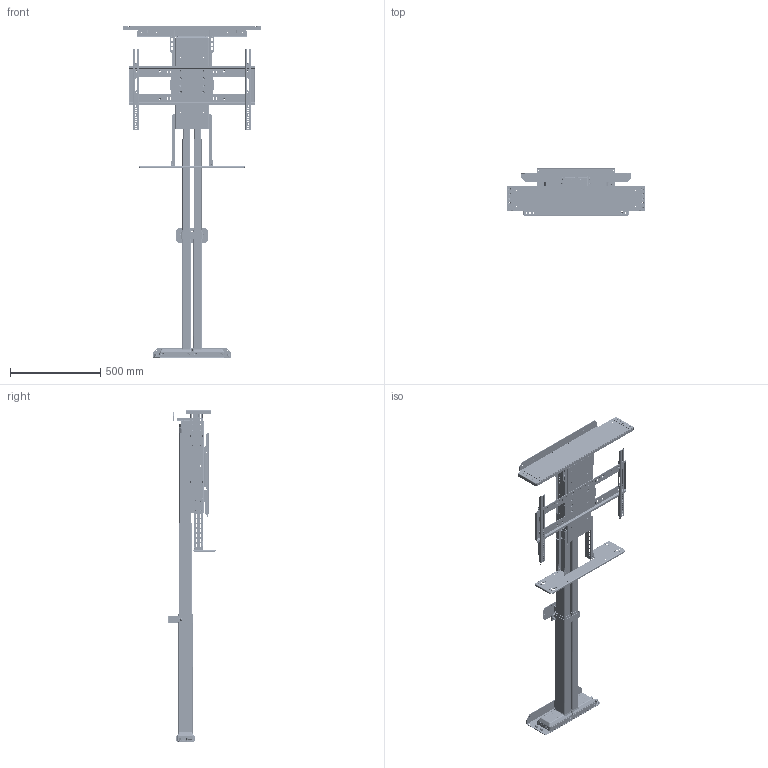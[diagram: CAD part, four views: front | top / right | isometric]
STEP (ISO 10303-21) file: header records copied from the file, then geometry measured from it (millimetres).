
FILE_DESCRIPTION(/* description */ ('STEP AP242','CAx-IF Rec.Pracs.---Representation and Presentation of Product Manufacturing Information (PMI)---4.0---2014-10-13','CAx-IF Rec.Pracs.---3D Tessellated Geometry---0.4---2014-09-14','2;1'),/* implementation_level */ '2;1');
FILE_NAME(/* name */ '65523c1b9b98ac61b84e0cd4',/* time_stamp */ '2023-11-13T15:09:19Z',/* author */ (''),/* organization */ (''),/* preprocessor_version */ 'ST-DEVELOPER v19.4',/* originating_system */ ' ',/* authorisation */ ' ');
FILE_SCHEMA (('AP242_MANAGED_MODEL_BASED_3D_ENGINEERING_MIM_LF { 1 0 10303 442 1 1 4 }'));
Products named in the file (90): DL-65en/s (HD); Socket button head screw M6x1 x 12; Hex socket countersunk head screw M6x1 x 12; Socket button head screw M6x1 x 16; WDS8151-215; ULS-NX-032 - HD Quick Release LC Mount; ULS-NX-029 - HD Column Clamp; L65 PS Adapter; Lift Column H <1>; L45 LC Inner Profile; L45 LC Motor Housing; L45 LC Middle Profile; Lift Column H <2>; ULS-NX-103 - ULS EN HD REAR SUPPORT WELDMENT <1>; ULS-NX-103 - ULS EN REAR SUPPORT; PEM FHS-M6-12  ; ULS-NX-013 -- L77OPU SS 013  - Rev B; ULS-NX-036 - ULS EN HD QR Base Mount <1>; ULS-NX-036 - ULS EN HD QR Base Mount; DL-65en 033 Lower Brkt Asm <1>; PEM CLS-M6-1  ; ULS-NX-016 - UL ACCESSORY PLATE; ULS-NX-033 -- L77OPU SS 033 - Rev B; SS Fixed Short - Rev B2 <1>; PEM CLS-M6-1; PEM Nut F-M4-2; PS Screen Support Fixed 01; PEM Nut CLSS-M5-1; MSHD Assm - Rev E9 <1>; M6x14 Button Socket Cap; MSHD Upper Assembly <1>; Spring 01; 93625A250_18-8 Stainless Steel Nylon-Insert Locknut; OTTO SERIES B2 SWITCH(2019); Ball Bearing 375; M2x8 92000A015_Passivated 18-8 Stainless Steel Pan Head Phillips Scre
ws; CP Washer 01; M2 Split Lock Washer; CP Plate Outer; Bushing 01 ...
Assembly tree (278 placements, depth 5):
  DL-65en/s (HD)
    Socket button head screw M6x1 x 12  x20
    Hex socket countersunk head screw M6x1 x 12  x17
    Socket button head screw M6x1 x 16  x4
    WDS8151-215  x6
    ULS-NX-032 - HD Quick Release LC Mount
    ULS-NX-029 - HD Column Clamp
    L65 PS Adapter
    Lift Column H <1>
      L45 LC Inner Profile
      L45 LC Motor Housing
      L45 LC Middle Profile
    Lift Column H <2>
      L45 LC Middle Profile
      L45 LC Motor Housing
      L45 LC Inner Profile
    ULS-NX-103 - ULS EN HD REAR SUPPORT WELDMENT <1>
      ULS-NX-103 - ULS EN REAR SUPPORT  x2
      PEM FHS-M6-12    x2
    ULS-NX-013 -- L77OPU SS 013  - Rev B
    ULS-NX-036 - ULS EN HD QR Base Mount <1>
      PEM FHS-M6-12    x4
      ULS-NX-036 - ULS EN HD QR Base Mount
    DL-65en 033 Lower Brkt Asm <1>
      PEM CLS-M6-1    x8
      ULS-NX-016 - UL ACCESSORY PLATE
      Hex socket countersunk head screw M6x1 x 12  x4
      ULS-NX-033 -- L77OPU SS 033 - Rev B  x2
    SS Fixed Short - Rev B2 <1>
      PEM CLS-M6-1  x42
      PEM Nut F-M4-2  x8
      PS Screen Support Fixed 01
      PEM Nut CLSS-M5-1  x2
      L65 PS Adapter
    MSHD Assm - Rev E9 <1>
      M6x14 Button Socket Cap  x12
      MSHD Upper Assembly <1>
        Spring 01  x8
        93625A250_18-8 Stainless Steel Nylon-Insert Locknut
        OTTO SERIES B2 SWITCH(2019)
        Ball Bearing 375
        M2x8 92000A015_Passivated 18-8 Stainless Steel Pan Head Phillips Scre
ws  x2
        CP Washer 01  x3
        M2 Split Lock Washer  x2
        93625A250_18-8 Stainless Steel Nylon-Insert Locknut
        CP Plate Outer  x2
        Bushing 01
        1_8 Ball
        Detent Socket
        MSHD Bottom Half
        OTTO SERIES B2 SWITCH(2019)
        Disc Spring
        MSHD Thrust Plate
        M6 Bolt Flathead
        CP Plate Inner  x2
        3726N125_Corrosion-Resistant Stacked Wave Disc Spring
        MSHD Top Half
      MSHD Base Plate <1>
        Alignment Pin  x2
        L-75ix SWIVEL SWITCH CABLE _1_
Bounding box: 768.1 x 268.61 x 1835.71 mm (x, y, z)
Volume: 17793164.5 mm3; surface area: 3580999.5 mm2
Topology: 261 solids, 261 shells, 14212 faces, 37052 edges, 23875 vertices
Faces by surface type: plane 8670, cylinder 3333, cone 1100, bspline 693, torus 346, sphere 70
Full cylindrical faces by diameter (mm): 1.194 x2, 1.208 x1, 1.473 x3, 1.552 x1, 1.575 x2, 1.6 x2, 1.956 x8, 2.235 x1, 2.642 x4, 2.794 x1, 3.048 x2, 3.175 x1, 3.505 x7, 3.683 x1, 4 x8, 4.496 x6, 4.6 x4, 4.75 x1, 4.917 x64, 4.978 x4, 5 x46, 5.026 x4, 5.08 x10, 5.277 x8, 5.3 x12, 5.385 x12, 5.41 x8, 5.6 x8, 5.944 x4, 5.994 x4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
Entity records: 156198 total; most frequent: CARTESIAN_POINT 39495, DIRECTION 22939, ORIENTED_EDGE 22130, EDGE_CURVE 11065, AXIS2_PLACEMENT_3D 8204, VERTEX_POINT 7471, LINE 6531, VECTOR 6531
